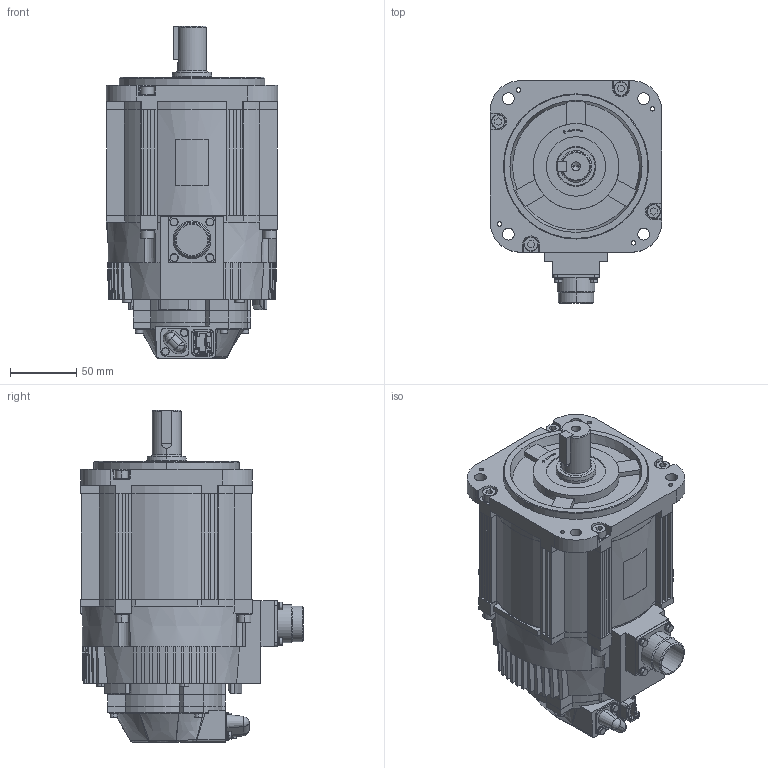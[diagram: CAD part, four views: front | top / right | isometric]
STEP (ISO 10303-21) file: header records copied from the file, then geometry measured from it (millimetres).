
FILE_DESCRIPTION (( 'STEP AP214' ), '1' );
FILE_NAME ('SGM7G-20APK-YR1.STEP', '2021-04-12T15:34:43', ( '' ), ( '' ), 'SwSTEP 2.0', 'SolidWorks 2019', '' );
FILE_SCHEMA (( 'AUTOMOTIVE_DESIGN' ));
Length unit declared in the file: millimetre
Products named in the file (1): SGM7G-20APK-YR1
Bounding box: 130 x 168.49 x 251.5 mm (x, y, z)
Volume: 2491911.5 mm3; surface area: 176543.1 mm2
Topology: 2 solids, 2 shells, 1108 faces, 2833 edges, 1814 vertices
Faces by surface type: plane 646, cylinder 286, cone 125, bspline 45, sphere 6
Entity records: 44795 total; most frequent: CARTESIAN_POINT 8263, ORIENTED_EDGE 5650, DIRECTION 5556, EDGE_CURVE 2825, AXIS2_PLACEMENT_3D 1940, VERTEX_POINT 1814, VECTOR 1676, LINE 1676
